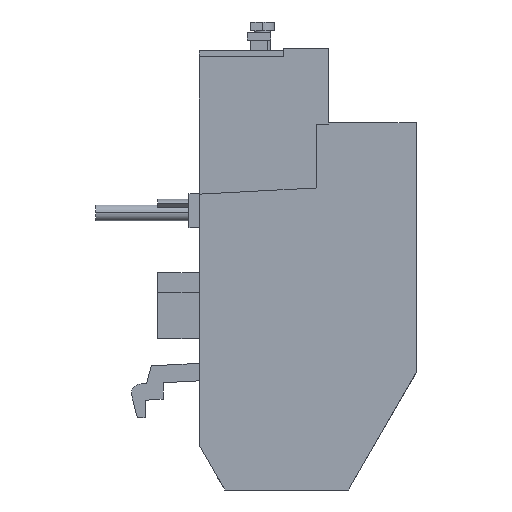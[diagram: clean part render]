
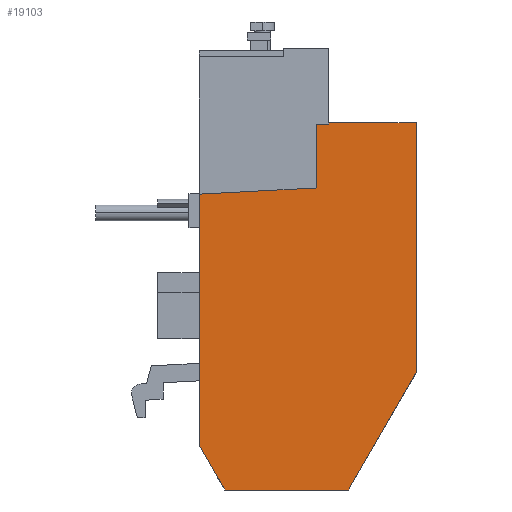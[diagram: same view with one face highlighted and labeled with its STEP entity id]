
A CAD part, left-side view. The second image highlights one B-rep face of the part: STEP entity #19103.
In plain terms, the highlighted planar face has unit normal (-1, 0, 0).
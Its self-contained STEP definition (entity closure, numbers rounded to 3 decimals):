
#3130=DIRECTION('',(0.,0.,1.));
#3131=VECTOR('',#3130,62.859);
#3132=CARTESIAN_POINT('',(-0.086,0.,29.445));
#3133=LINE('',#3132,#3131);
#4171=DIRECTION('',(0.,1.,0.));
#4172=VECTOR('',#4171,22.);
#4173=CARTESIAN_POINT('',(-0.086,0.,92.303));
#4174=LINE('',#4173,#4172);
#4178=DIRECTION('',(0.,-0.5,0.866));
#4179=VECTOR('',#4178,34.);
#4180=CARTESIAN_POINT('',(-0.086,17.,0.));
#4181=LINE('',#4180,#4179);
#4185=DIRECTION('',(0.,0.5,0.866));
#4186=VECTOR('',#4185,12.807);
#4187=CARTESIAN_POINT('',(-0.086,48.096,0.));
#4188=LINE('',#4187,#4186);
#4192=DIRECTION('',(0.,0.,1.));
#4193=VECTOR('',#4192,63.295);
#4194=CARTESIAN_POINT('',(-0.086,54.5,
11.092));
#4195=LINE('',#4194,#4193);
#4199=DIRECTION('',(0.,-0.999,0.052));
#4200=VECTOR('',#4199,29.44);
#4201=CARTESIAN_POINT('',(-0.086,54.5,
74.387));
#4202=LINE('',#4201,#4200);
#4206=DIRECTION('',(0.,0.,1.));
#4207=VECTOR('',#4206,16.062);
#4208=CARTESIAN_POINT('',(-0.086,25.1,75.928));
#4209=LINE('',#4208,#4207);
#4213=DIRECTION('',(0.,-1.,0.));
#4214=VECTOR('',#4213,3.1);
#4215=CARTESIAN_POINT('',(-0.086,25.1,91.99));
#4216=LINE('',#4215,#4214);
#4220=DIRECTION('',(0.,0.,-1.));
#4221=VECTOR('',#4220,0.313);
#4222=CARTESIAN_POINT('',(-0.086,22.,92.303));
#4223=LINE('',#4222,#4221);
#5120=DIRECTION('',(0.,-1.,0.));
#5121=VECTOR('',#5120,31.096);
#5122=CARTESIAN_POINT('',(-0.086,48.096,0.));
#5123=LINE('',#5122,#5121);
#12989=CARTESIAN_POINT('',(-0.086,17.,0.));
#12990=CARTESIAN_POINT('',(-0.086,0.,29.445));
#12991=VERTEX_POINT('',#12989);
#12992=VERTEX_POINT('',#12990);
#13236=CARTESIAN_POINT('',(-0.086,54.5,
11.092));
#13238=VERTEX_POINT('',#13236);
#13239=CARTESIAN_POINT('',(-0.086,48.096,0.));
#13240=VERTEX_POINT('',#13239);
#13341=CARTESIAN_POINT('',(-0.086,54.5,
74.387));
#13343=VERTEX_POINT('',#13341);
#13345=CARTESIAN_POINT('',(-0.086,25.1,75.928));
#13346=CARTESIAN_POINT('',(-0.086,25.1,91.99));
#13347=VERTEX_POINT('',#13345);
#13348=VERTEX_POINT('',#13346);
#13349=CARTESIAN_POINT('',(-0.086,22.,91.99));
#13350=VERTEX_POINT('',#13349);
#13393=CARTESIAN_POINT('',(-0.086,0.,92.303));
#13395=VERTEX_POINT('',#13393);
#13397=CARTESIAN_POINT('',(-0.086,22.,92.303));
#13398=VERTEX_POINT('',#13397);
#19082=CARTESIAN_POINT('',(-0.086,54.5,0.));
#19083=DIRECTION('',(-1.,0.,0.));
#19084=DIRECTION('',(0.,-1.,0.));
#19085=AXIS2_PLACEMENT_3D('',#19082,#19083,#19084);
#19086=PLANE('',#19085);
#19087=ORIENTED_EDGE('',*,*,#18288,.F.);
#19088=ORIENTED_EDGE('',*,*,#18357,.F.);
#19090=ORIENTED_EDGE('',*,*,#19089,.F.);
#19092=ORIENTED_EDGE('',*,*,#19091,.F.);
#19094=ORIENTED_EDGE('',*,*,#19093,.T.);
#19095=ORIENTED_EDGE('',*,*,#18540,.T.);
#19096=ORIENTED_EDGE('',*,*,#19063,.T.);
#19097=ORIENTED_EDGE('',*,*,#19073,.T.);
#19099=ORIENTED_EDGE('',*,*,#19098,.T.);
#19100=ORIENTED_EDGE('',*,*,#18273,.F.);
#19101=EDGE_LOOP('',(#19087,#19088,#19090,#19092,#19094,#19095,#19096,#19097,
#19099,#19100));
#19102=FACE_OUTER_BOUND('',#19101,.F.);
#18273=EDGE_CURVE('',#13398,#13350,#4223,.T.);
#18288=EDGE_CURVE('',#13395,#13398,#4174,.T.);
#18357=EDGE_CURVE('',#12992,#13395,#3133,.T.);
#18540=EDGE_CURVE('',#13238,#13343,#4195,.T.);
#19063=EDGE_CURVE('',#13343,#13347,#4202,.T.);
#19073=EDGE_CURVE('',#13347,#13348,#4209,.T.);
#19089=EDGE_CURVE('',#12991,#12992,#4181,.T.);
#19091=EDGE_CURVE('',#13240,#12991,#5123,.T.);
#19093=EDGE_CURVE('',#13240,#13238,#4188,.T.);
#19098=EDGE_CURVE('',#13348,#13350,#4216,.T.);
#19103=ADVANCED_FACE('',(#19102),#19086,.T.);
